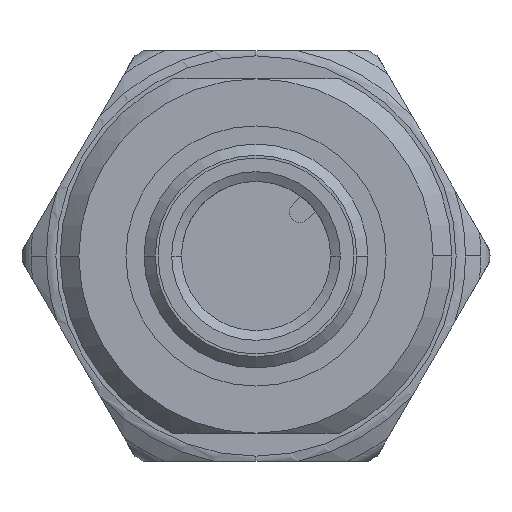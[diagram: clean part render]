
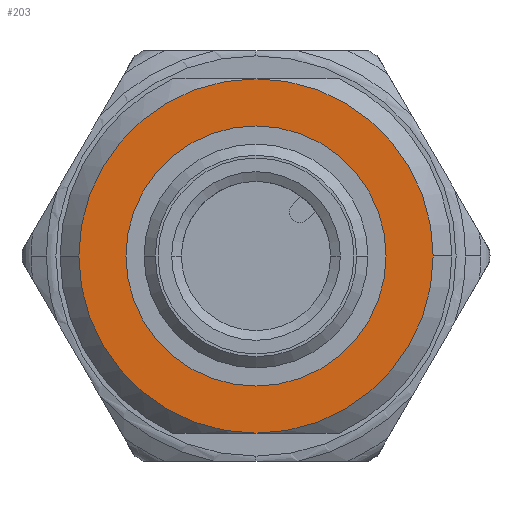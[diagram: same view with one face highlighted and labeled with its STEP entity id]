
A CAD part, left-side view. The second image highlights one B-rep face of the part: STEP entity #203.
In plain terms, the highlighted planar face has unit normal (-1, 0, 0).
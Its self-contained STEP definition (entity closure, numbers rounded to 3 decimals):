
#203 = ADVANCED_FACE( '', ( #482, #483 ), #484, .T. );
#482 = FACE_BOUND( '', #777, .T. );
#483 = FACE_OUTER_BOUND( '', #778, .T. );
#484 = PLANE( '', #779 );
#777 = EDGE_LOOP( '', ( #1857, #1858 ) );
#778 = EDGE_LOOP( '', ( #1859, #1860, #1861, #1862 ) );
#779 = AXIS2_PLACEMENT_3D( '', #1863, #1864, #1865 );
#1857 = ORIENTED_EDGE( '', *, *, #1983, .F. );
#1858 = ORIENTED_EDGE( '', *, *, #2307, .F. );
#1859 = ORIENTED_EDGE( '', *, *, #2306, .T. );
#1860 = ORIENTED_EDGE( '', *, *, #1989, .T. );
#1861 = ORIENTED_EDGE( '', *, *, #2148, .T. );
#1862 = ORIENTED_EDGE( '', *, *, #2174, .T. );
#1863 = CARTESIAN_POINT( '', ( -82., 8.238, 0. ) );
#1864 = DIRECTION( '', ( -1., 0., 0. ) );
#1865 = DIRECTION( '', ( 0., 1., 0. ) );
#1983 = EDGE_CURVE( '', #2367, #2370, #2371, .T. );
#1989 = EDGE_CURVE( '', #2376, #2380, #2382, .T. );
#2148 = EDGE_CURVE( '', #2380, #2676, #2678, .T. );
#2174 = EDGE_CURVE( '', #2676, #2707, #2720, .T. );
#2306 = EDGE_CURVE( '', #2707, #2376, #2905, .T. );
#2307 = EDGE_CURVE( '', #2370, #2367, #2906, .T. );
#2367 = VERTEX_POINT( '', #2979 );
#2370 = VERTEX_POINT( '', #2983 );
#2371 = CIRCLE( '', #2984, 6.975 );
#2376 = VERTEX_POINT( '', #2990 );
#2380 = VERTEX_POINT( '', #2995 );
#2382 = CIRCLE( '', #3006, 9.5 );
#2676 = VERTEX_POINT( '', #3504 );
#2678 = CIRCLE( '', #3507, 9.5 );
#2707 = VERTEX_POINT( '', #3555 );
#2720 = CIRCLE( '', #3606, 9.5 );
#2905 = CIRCLE( '', #4497, 9.5 );
#2906 = CIRCLE( '', #4498, 6.975 );
#2979 = CARTESIAN_POINT( '', ( -82., 6.975, 0. ) );
#2983 = CARTESIAN_POINT( '', ( -82., -6.975, 0. ) );
#2984 = AXIS2_PLACEMENT_3D( '', #4566, #4567, #4568 );
#2990 = CARTESIAN_POINT( '', ( -82., 9.5, 0. ) );
#2995 = CARTESIAN_POINT( '', ( -82., 0., -9.5 ) );
#3006 = AXIS2_PLACEMENT_3D( '', #4577, #4578, #4579 );
#3504 = CARTESIAN_POINT( '', ( -82., -9.5, 0. ) );
#3507 = AXIS2_PLACEMENT_3D( '', #4926, #4927, #4928 );
#3555 = CARTESIAN_POINT( '', ( -82., 0., 9.5 ) );
#3606 = AXIS2_PLACEMENT_3D( '', #4965, #4966, #4967 );
#4497 = AXIS2_PLACEMENT_3D( '', #5185, #5186, #5187 );
#4498 = AXIS2_PLACEMENT_3D( '', #5188, #5189, #5190 );
#4566 = CARTESIAN_POINT( '', ( -82., 0., 0. ) );
#4567 = DIRECTION( '', ( -1., 0., 0. ) );
#4568 = DIRECTION( '', ( 0., 1., 0. ) );
#4577 = CARTESIAN_POINT( '', ( -82., 0., 0. ) );
#4578 = DIRECTION( '', ( -1., 0., 0. ) );
#4579 = DIRECTION( '', ( 0., 1., 0. ) );
#4926 = CARTESIAN_POINT( '', ( -82., 0., 0. ) );
#4927 = DIRECTION( '', ( -1., 0., 0. ) );
#4928 = DIRECTION( '', ( 0., 1., 0. ) );
#4965 = CARTESIAN_POINT( '', ( -82., 0., 0. ) );
#4966 = DIRECTION( '', ( -1., 0., 0. ) );
#4967 = DIRECTION( '', ( 0., 1., 0. ) );
#5185 = CARTESIAN_POINT( '', ( -82., 0., 0. ) );
#5186 = DIRECTION( '', ( -1., 0., 0. ) );
#5187 = DIRECTION( '', ( 0., 1., 0. ) );
#5188 = CARTESIAN_POINT( '', ( -82., 0., 0. ) );
#5189 = DIRECTION( '', ( -1., 0., 0. ) );
#5190 = DIRECTION( '', ( 0., 1., 0. ) );
